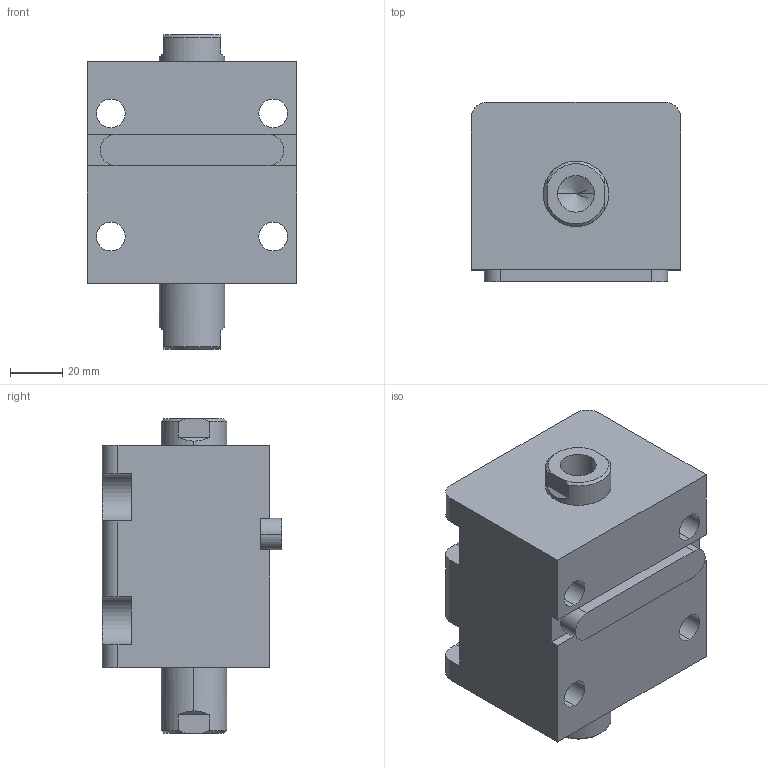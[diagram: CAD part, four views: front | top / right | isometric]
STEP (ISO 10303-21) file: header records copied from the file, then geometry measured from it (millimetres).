
FILE_DESCRIPTION (( 'STEP AP203' ), '1' );
FILE_NAME ('HTB-LW40-15N.STEP', '2019-10-09T07:53:37', ( '微软用户' ), ( '微软中国' ), 'SwSTEP 2.0', 'SolidWorks 2012', '' );
FILE_SCHEMA (( 'CONFIG_CONTROL_DESIGN' ));
Length unit declared in the file: millimetre
Products named in the file (4): HTB-LW40-15N; HTB-LA40-瑩; HTB-LW40-15N活塞杆; HTB-LW40-15掛极
Assembly tree (3 placements, depth 2):
  HTB-LW40-15N
    HTB-LW40-15掛极
    HTB-LW40-15N活塞杆
    HTB-LA40-瑩
Bounding box: 80 x 68.5 x 120 mm (x, y, z)
Volume: 400549.2 mm3; surface area: 69481.9 mm2
Topology: 3 solids, 3 shells, 105 faces, 261 edges, 168 vertices
Faces by surface type: plane 44, cylinder 41, cone 12, torus 8
Entity records: 3567 total; most frequent: CARTESIAN_POINT 588, DIRECTION 573, ORIENTED_EDGE 514, EDGE_CURVE 257, AXIS2_PLACEMENT_3D 221, VERTEX_POINT 168, LINE 131, VECTOR 131
